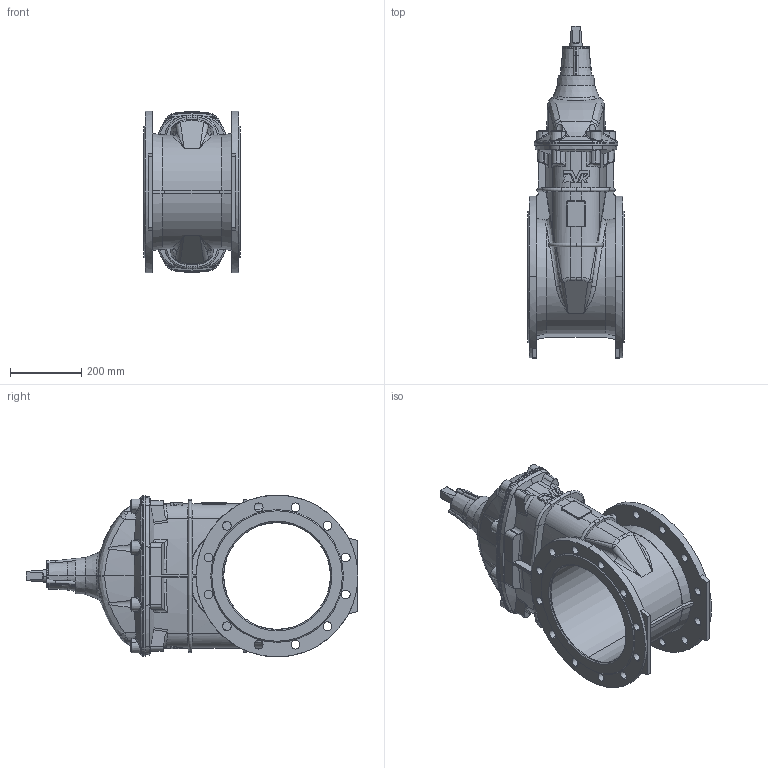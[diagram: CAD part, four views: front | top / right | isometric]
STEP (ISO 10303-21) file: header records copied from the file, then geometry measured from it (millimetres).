
FILE_DESCRIPTION (( 'STEP AP203' ), '1' );
FILE_NAME ('O_06_30_DN300_XXXXX87_PN10_REV02.step', '2021-01-11T10:58:55', ( '' ), ( '' ), 'SwSTEP 2.0', 'SolidWorks 2019', '' );
FILE_SCHEMA (( 'CONFIG_CONTROL_DESIGN' ));
Length unit declared in the file: millimetre
Products named in the file (1): O_06_30_DN300_XXXXX87_PN10_REV02
Bounding box: 270 x 933.55 x 455 mm (x, y, z)
Volume: 30992640.1 mm3; surface area: 1453327 mm2
Topology: 1 solids, 1 shells, 824 faces, 2219 edges, 1403 vertices
Faces by surface type: cylinder 235, plane 217, bspline 166, cone 138, torus 68
Entity records: 35316 total; most frequent: CARTESIAN_POINT 16666, ORIENTED_EDGE 4422, DIRECTION 3287, EDGE_CURVE 2211, VERTEX_POINT 1403, AXIS2_PLACEMENT_3D 1322, EDGE_LOOP 888, FACE_OUTER_BOUND 824
